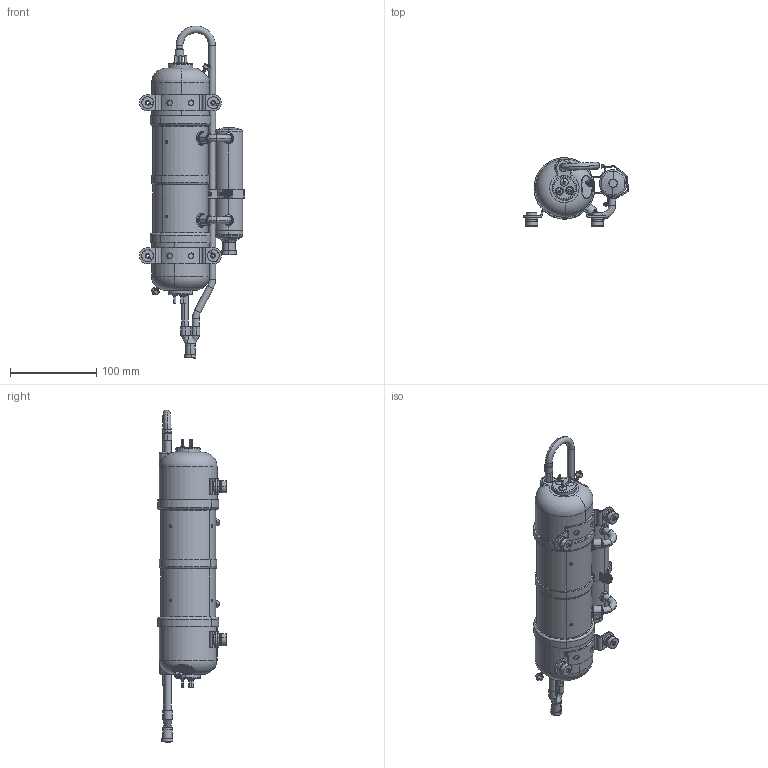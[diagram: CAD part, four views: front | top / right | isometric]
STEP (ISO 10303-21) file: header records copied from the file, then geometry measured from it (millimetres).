
FILE_DESCRIPTION (( 'STEP AP203' ), '1' );
FILE_NAME ('H76-XX-XXXX Compressor, Horizontal, 7.6cc.STEP', '2023-12-05T03:19:53', ( '' ), ( '' ), 'SwSTEP 2.0', 'SolidWorks 2021', '' );
FILE_SCHEMA (( 'CONFIG_CONTROL_DESIGN' ));
Products named in the file (1): H76-XX-XXXX Compressor, Horizontal, 7.6cc
Bounding box: 122.12 x 79.55 x 385.85 mm (x, y, z)
Volume: 161410.9 mm3; surface area: 224960.7 mm2
Topology: 46 solids, 48 shells, 1721 faces, 4016 edges, 2434 vertices
Faces by surface type: cylinder 774, plane 331, torus 284, cone 186, bspline 146
Entity records: 69450 total; most frequent: CARTESIAN_POINT 31822, ORIENTED_EDGE 7992, DIRECTION 7843, EDGE_CURVE 3996, AXIS2_PLACEMENT_3D 3260, VERTEX_POINT 2434, EDGE_LOOP 1914, ADVANCED_FACE 1721
